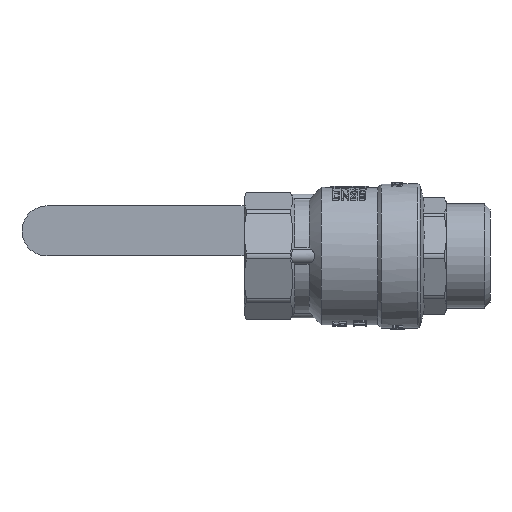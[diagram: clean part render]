
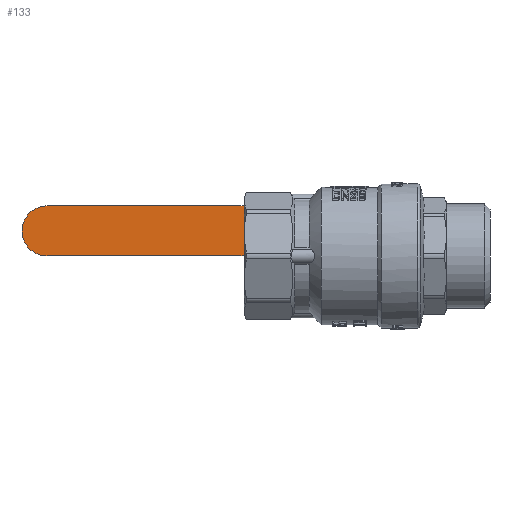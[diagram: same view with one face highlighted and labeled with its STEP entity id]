
A CAD part, front view. The second image highlights one B-rep face of the part: STEP entity #133.
In plain terms, the highlighted planar face has unit normal (0, -1, 0).
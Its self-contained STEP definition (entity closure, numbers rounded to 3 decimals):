
#133=ADVANCED_FACE('',(#1628),#1630,.F.);
#1628=FACE_BOUND('',#1629,.T.);
#1629=EDGE_LOOP('',(#7110,#7111,#7112,#7113));
#1630=PLANE('',#1631);
#1631=AXIS2_PLACEMENT_3D('',#1632,#1633,#1634);
#1632=CARTESIAN_POINT('',(3.899,47.985,0.));
#1633=DIRECTION('',(0.,1.,0.));
#1634=DIRECTION('',(-1.,0.,0.));
#7110=ORIENTED_EDGE('',*,*,#12598,.F.);
#7111=ORIENTED_EDGE('',*,*,#12539,.F.);
#7112=ORIENTED_EDGE('',*,*,#12599,.F.);
#7113=ORIENTED_EDGE('',*,*,#12600,.F.);
#12539=EDGE_CURVE('',#14909,#14910,#14911,.T.);
#12598=EDGE_CURVE('',#14910,#15008,#15009,.T.);
#12599=EDGE_CURVE('',#15010,#14909,#15011,.T.);
#12600=EDGE_CURVE('',#15008,#15010,#15012,.F.);
#14909=VERTEX_POINT('',#19619);
#14910=VERTEX_POINT('',#19620);
#14911=LINE('',#19621,#19622);
#15008=VERTEX_POINT('',#20257);
#15009=LINE('',#20258,#20259);
#15010=VERTEX_POINT('',#20261);
#15011=LINE('',#20262,#20263);
#15012=CIRCLE('',#20265,8.);
#19619=CARTESIAN_POINT('',(-33.213,47.985,16.));
#19620=CARTESIAN_POINT('',(-33.213,47.985,0.));
#19621=CARTESIAN_POINT('',(-33.213,47.985,16.));
#19622=VECTOR('',#19623,1.);
#19623=DIRECTION('',(0.,0.,-1.));
#20257=CARTESIAN_POINT('',(-97.728,47.985,0.));
#20258=CARTESIAN_POINT('',(-33.213,47.985,0.));
#20259=VECTOR('',#20260,1.);
#20260=DIRECTION('',(-1.,0.,0.));
#20261=CARTESIAN_POINT('',(-97.728,47.985,16.));
#20262=CARTESIAN_POINT('',(-97.728,47.985,16.));
#20263=VECTOR('',#20264,1.);
#20264=DIRECTION('',(1.,0.,0.));
#20265=AXIS2_PLACEMENT_3D('',#20266,#20267,#20268);
#20266=CARTESIAN_POINT('',(-97.728,47.985,8.));
#20267=DIRECTION('',(0.,-1.,0.));
#20268=DIRECTION('',(0.,0.,1.));
